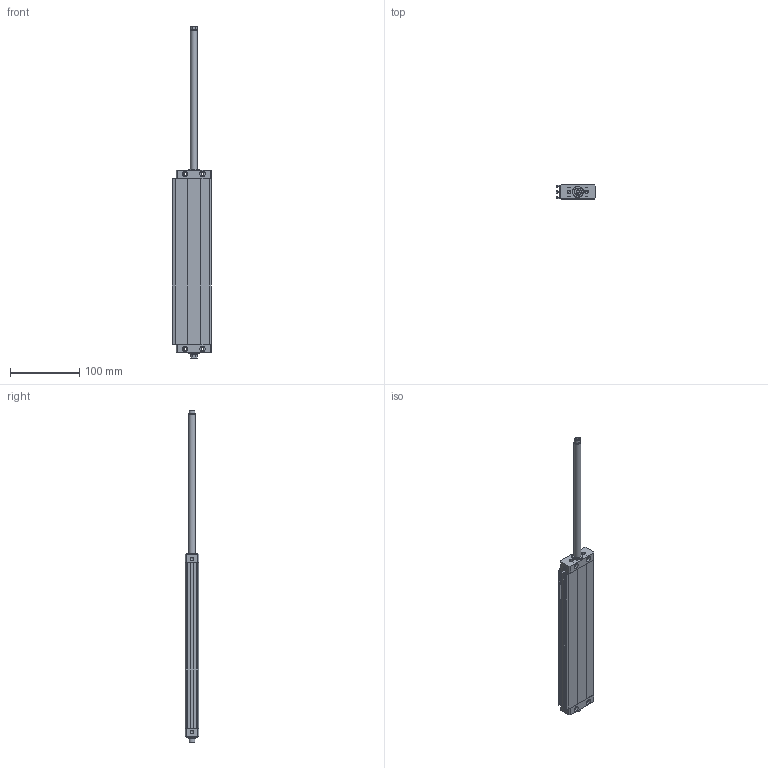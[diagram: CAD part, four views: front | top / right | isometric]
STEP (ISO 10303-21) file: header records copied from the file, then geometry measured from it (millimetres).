
FILE_DESCRIPTION((''),'2;1');
FILE_NAME('I:\Area Tecnica\Disegni\VARIE-3D\Componenti\1370 - CPO\1370_##_0000_03\1370_25_0200_03-01.iam.step','2010-12-16T10:53:33',(''),(''),'Autodesk Inventor 2011','Autodesk Inventor 2011','');
FILE_SCHEMA(('AUTOMOTIVE_DESIGN { 1 0 10303 214 1 1 1 1 }'));
Length unit declared in the file: millimetre
Products named in the file (5): 1370_25_0200_03-01; 1370_05_25_0000; 1370_06_25_0200; 1370_08_25_0000; 1370_3_25_0200
Assembly tree (4 placements, depth 2):
  1370_25_0200_03-01
    1370_05_25_0000
    1370_06_25_0200
    1370_08_25_0000
    1370_3_25_0200
Bounding box: 56.25 x 20 x 478 mm (x, y, z)
Volume: 185840.7 mm3; surface area: 94329.1 mm2
Topology: 4 solids, 4 shells, 158 faces, 378 edges, 238 vertices
Faces by surface type: plane 90, cylinder 48, cone 20
Full cylindrical faces by diameter (mm): 4.2 x22, 5.2 x2, 8 x8, 9.5 x2, 10 x4, 16 x2
Entity records: 4480 total; most frequent: DIRECTION 750, CARTESIAN_POINT 695, ORIENTED_EDGE 608, EDGE_CURVE 304, AXIS2_PLACEMENT_3D 279, EDGE_LOOP 250, VERTEX_POINT 224, VECTOR 192
